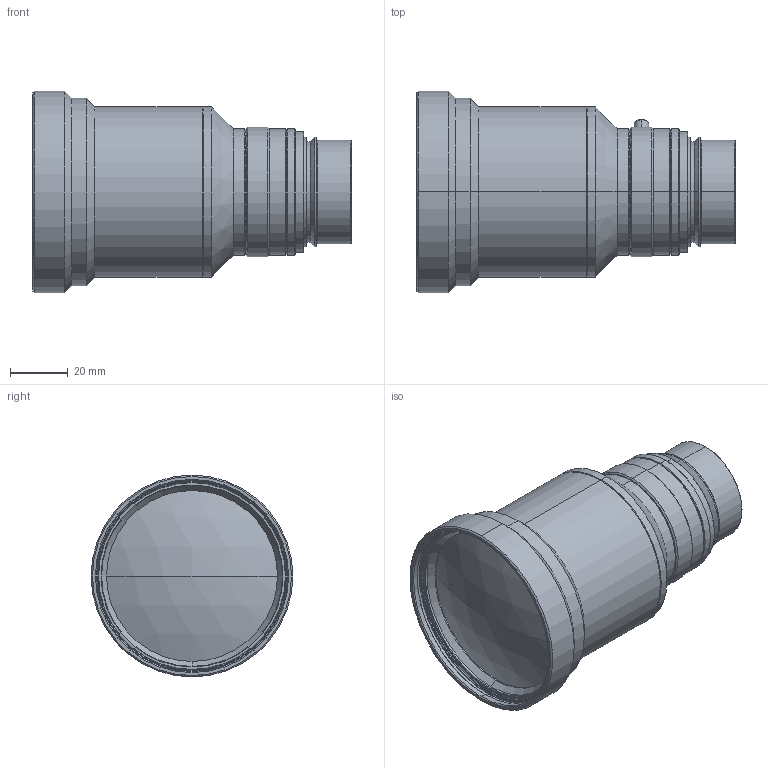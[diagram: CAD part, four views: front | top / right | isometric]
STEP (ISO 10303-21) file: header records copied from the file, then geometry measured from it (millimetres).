
FILE_DESCRIPTION (( 'STEP AP203' ), '1' );
FILE_NAME ('VS-L6035_V.STEP', '2014-05-22T09:20:07', ( '' ), ( '' ), 'SwSTEP 2.0', 'SolidWorks 2014', '' );
FILE_SCHEMA (( 'CONFIG_CONTROL_DESIGN' ));
Length unit declared in the file: millimetre
Products named in the file (1): VS-L6035_V
Bounding box: 110.49 x 70 x 70 mm (x, y, z)
Volume: 239057 mm3; surface area: 27388.4 mm2
Topology: 1 solids, 1 shells, 134 faces, 270 edges, 154 vertices
Faces by surface type: cone 68, cylinder 46, plane 16, sphere 4
Entity records: 3569 total; most frequent: DIRECTION 692, CARTESIAN_POINT 591, ORIENTED_EDGE 540, AXIS2_PLACEMENT_3D 289, EDGE_CURVE 270, CIRCLE 154, VERTEX_POINT 154, EDGE_LOOP 150
